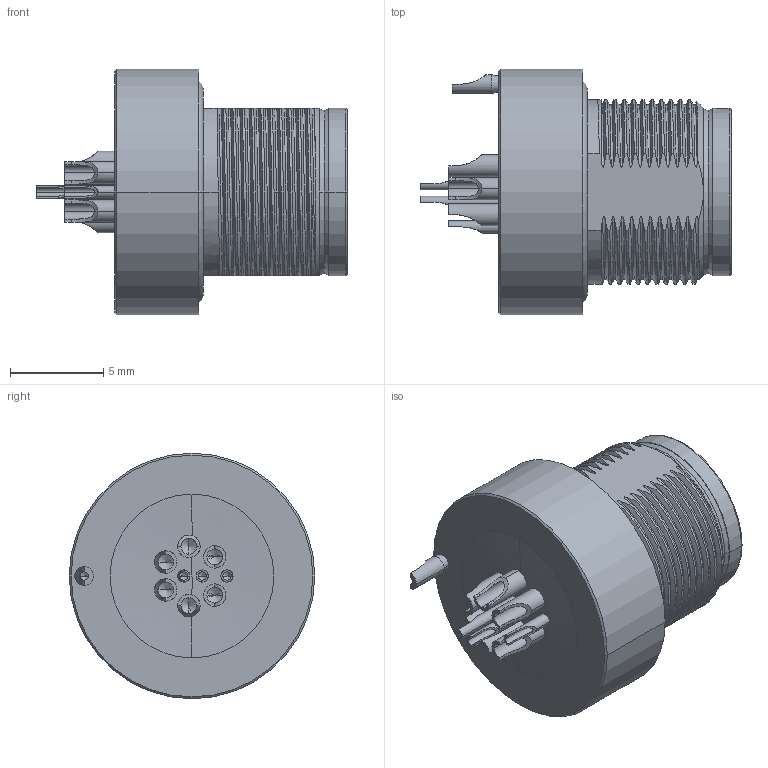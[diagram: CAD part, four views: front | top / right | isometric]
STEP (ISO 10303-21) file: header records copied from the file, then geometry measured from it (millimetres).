
FILE_DESCRIPTION((''),'2;1');
FILE_NAME('00058859--_ASM','2020-10-30T08:22:50',('EUnterhaslberger'),(''),'CREO PARAMETRIC BY PTC INC, 2018300','CREO PARAMETRIC BY PTC INC, 2018300','');
FILE_SCHEMA(('AP242_MANAGED_MODEL_BASED_3D_ENGINEERING_MIM_LF { 1 0 10303 442 1 1 4 }'));
Length unit declared in the file: millimetre
Products named in the file (4): TEMP_SW_STEP_MONOBLOCK_1_1; TEMP_SW_STEP_MONOBLOCK_1_2; TEMP_SW_STEP_MONOBLOCK_1_ASM; 00058859--_ASM
Assembly tree (3 placements, depth 3):
  00058859--_ASM
    TEMP_SW_STEP_MONOBLOCK_1_ASM
      TEMP_SW_STEP_MONOBLOCK_1_1
      TEMP_SW_STEP_MONOBLOCK_1_2
Bounding box: 16.7 x 13.2 x 13.2 mm (x, y, z)
Volume: 912.6 mm3; surface area: 1311.7 mm2
Topology: 2 solids, 2 shells, 392 faces, 1065 edges, 697 vertices
Faces by surface type: cylinder 134, plane 109, bspline 72, cone 54, torus 23
Entity records: 25968 total; most frequent: CARTESIAN_POINT 13863, ORIENTED_EDGE 2086, DIRECTION 1672, EDGE_CURVE 1043, VERTEX_POINT 697, AXIS2_PLACEMENT_3D 652, EDGE_LOOP 436, FACE_OUTER_BOUND 392
